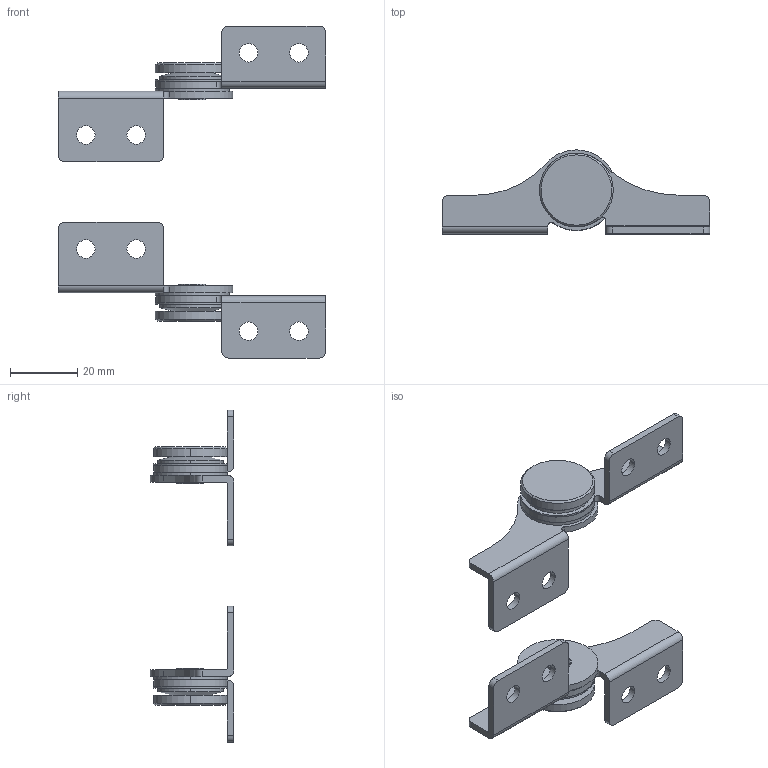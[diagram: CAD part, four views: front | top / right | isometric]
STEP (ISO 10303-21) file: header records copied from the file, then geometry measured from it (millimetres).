
FILE_DESCRIPTION (( 'STEP AP203' ), '1' );
FILE_NAME ('XG11-010.STEP', '2023-12-04T06:18:44', ( '' ), ( '' ), 'SwSTEP 2.0', 'SolidWorks 2020', '' );
FILE_SCHEMA (( 'CONFIG_CONTROL_DESIGN' ));
Length unit declared in the file: millimetre
Products named in the file (1): XG11-010
Bounding box: 79.79 x 25 x 99 mm (x, y, z)
Volume: 14405.6 mm3; surface area: 18391.4 mm2
Topology: 12 solids, 12 shells, 158 faces, 380 edges, 247 vertices
Faces by surface type: cylinder 92, plane 50, cone 16
Entity records: 4793 total; most frequent: DIRECTION 892, CARTESIAN_POINT 790, ORIENTED_EDGE 756, EDGE_CURVE 378, AXIS2_PLACEMENT_3D 357, VERTEX_POINT 247, EDGE_LOOP 199, CIRCLE 198
